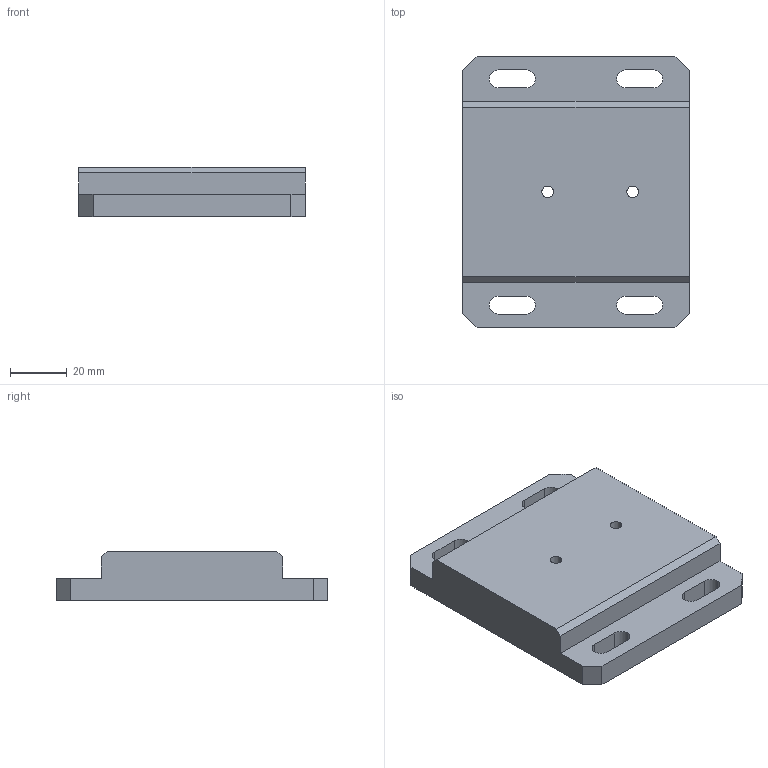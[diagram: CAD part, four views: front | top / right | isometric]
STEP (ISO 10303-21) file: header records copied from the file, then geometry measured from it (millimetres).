
FILE_DESCRIPTION (( 'STEP AP214' ), '1' );
FILE_NAME ('GZ27.01_V1气缸底座.STEP', '2021-04-10T09:06:49', ( '微软中国' ), ( 'Microsoft' ), 'SwSTEP 2.0', 'SolidWorks 2017', '' );
FILE_SCHEMA (( 'AUTOMOTIVE_DESIGN' ));
Length unit declared in the file: millimetre
Products named in the file (1): GZ27.01_V1气缸底座
Bounding box: 80 x 96 x 17.5 mm (x, y, z)
Volume: 105876.7 mm3; surface area: 21443.7 mm2
Topology: 1 solids, 1 shells, 40 faces, 114 edges, 76 vertices
Faces by surface type: plane 24, cylinder 16
Entity records: 1412 total; most frequent: CARTESIAN_POINT 231, DIRECTION 228, ORIENTED_EDGE 228, EDGE_CURVE 114, LINE 82, VECTOR 82, VERTEX_POINT 76, AXIS2_PLACEMENT_3D 73
